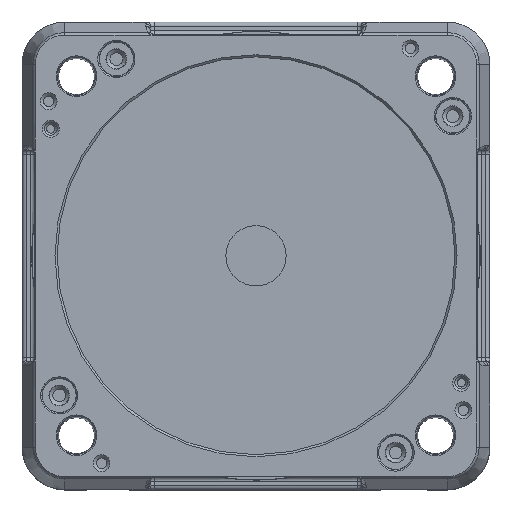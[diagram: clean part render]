
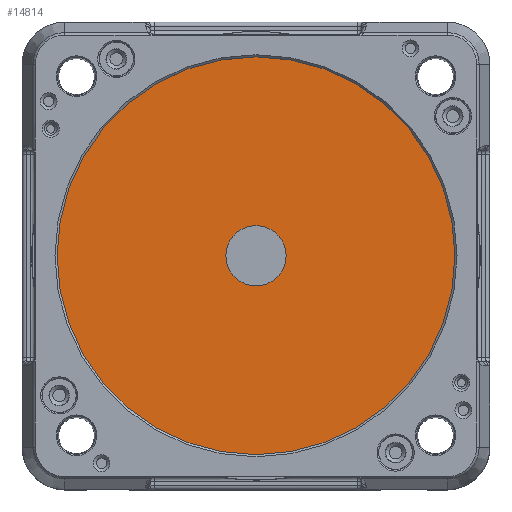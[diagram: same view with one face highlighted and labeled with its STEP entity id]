
A CAD part, top view. The second image highlights one B-rep face of the part: STEP entity #14814.
In plain terms, the highlighted planar face has unit normal (0, 0, 1) as drawn and (0, 0, -1) by its records, which use the part's own axes.
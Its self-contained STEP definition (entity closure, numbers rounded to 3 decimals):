
#9069=CARTESIAN_POINT('',(7.122,0.,-7.5));
#9070=VERTEX_POINT('',#9069);
#9071=CARTESIAN_POINT('',(0.,0.,-7.5));
#9072=DIRECTION('',(0.0,0.0,1.0));
#9073=DIRECTION('',(-1.0,0.0,0.0));
#9074=AXIS2_PLACEMENT_3D('',#9071,#9072,#9073);
#9075=CIRCLE('',#9074,7.122);
#9076=EDGE_CURVE('',#9070,#9070,#9075,.T.);
#9336=CARTESIAN_POINT('',(-47.0,0.,-7.5));
#9337=VERTEX_POINT('',#9336);
#9338=CARTESIAN_POINT('',(0.0,0.0,-7.5));
#9339=DIRECTION('',(0.0,0.0,-1.0));
#9340=DIRECTION('',(1.0,0.0,0.0));
#9341=AXIS2_PLACEMENT_3D('',#9338,#9339,#9340);
#9342=CIRCLE('',#9341,47.0);
#9343=EDGE_CURVE('',#9337,#9337,#9342,.T.);
#14803=CARTESIAN_POINT('',(0.0,0.0,-7.5));
#14804=DIRECTION('',(0.0,0.0,1.0));
#14805=DIRECTION('',(1.0,0.0,0.0));
#14806=AXIS2_PLACEMENT_3D('',#14803,#14804,#14805);
#14807=PLANE('',#14806);
#14808=ORIENTED_EDGE('',*,*,#9343,.T.);
#14809=EDGE_LOOP('',(#14808));
#14810=FACE_OUTER_BOUND('',#14809,.T.);
#14811=ORIENTED_EDGE('',*,*,#9076,.T.);
#14812=EDGE_LOOP('',(#14811));
#14813=FACE_BOUND('',#14812,.T.);
#14814=ADVANCED_FACE('',(#14810,#14813),#14807,.F.);
